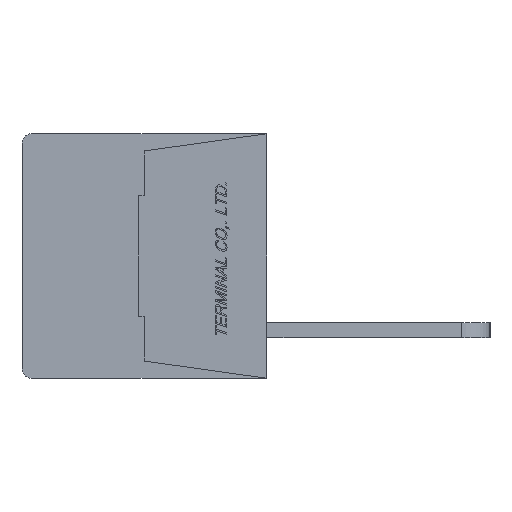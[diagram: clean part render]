
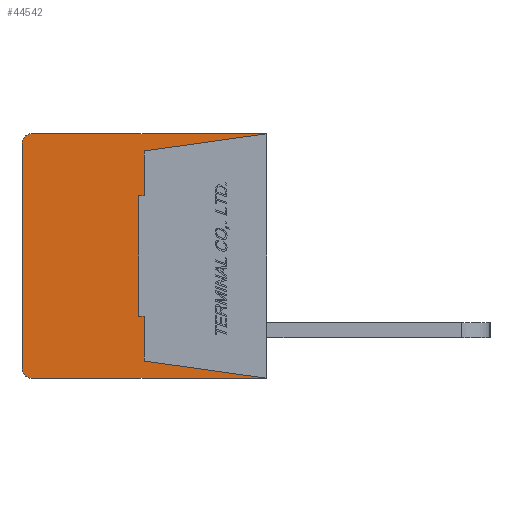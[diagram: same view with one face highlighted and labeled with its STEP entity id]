
A CAD part, left-side view. The second image highlights one B-rep face of the part: STEP entity #44542.
In plain terms, the highlighted planar face has unit normal (-1, 0, 0).
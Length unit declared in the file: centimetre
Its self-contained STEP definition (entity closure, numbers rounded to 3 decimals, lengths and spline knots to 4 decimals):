
#2286=CIRCLE('',#76339,0.05);
#2287=CIRCLE('',#76342,0.05);
#3944=VERTEX_POINT('',#61803);
#3945=VERTEX_POINT('',#61805);
#3946=VERTEX_POINT('',#61809);
#3947=VERTEX_POINT('',#61813);
#3948=VERTEX_POINT('',#61817);
#3949=VERTEX_POINT('',#61821);
#3950=VERTEX_POINT('',#61825);
#3951=VERTEX_POINT('',#61827);
#3952=VERTEX_POINT('',#61829);
#3953=VERTEX_POINT('',#61831);
#3954=VERTEX_POINT('',#61833);
#3955=VERTEX_POINT('',#61835);
#8624=VECTOR('',#51688,1.);
#8628=VECTOR('',#51697,1.);
#8631=VECTOR('',#51705,1.);
#8632=VECTOR('',#51707,1.);
#8633=VECTOR('',#51708,1.);
#8634=VECTOR('',#51709,1.);
#8635=VECTOR('',#51710,1.);
#8636=VECTOR('',#51711,1.);
#8637=VECTOR('',#51712,1.);
#8638=VECTOR('',#51713,1.);
#13826=LINE('',#61804,#8624);
#13830=LINE('',#61814,#8628);
#13833=LINE('',#61822,#8631);
#13834=LINE('',#61824,#8632);
#13835=LINE('',#61826,#8633);
#13836=LINE('',#61828,#8634);
#13837=LINE('',#61830,#8635);
#13838=LINE('',#61832,#8636);
#13839=LINE('',#61834,#8637);
#13840=LINE('',#61836,#8638);
#19636=EDGE_CURVE('',#3945,#3944,#13826,.T.);
#19639=EDGE_CURVE('',#3946,#3944,#2286,.T.);
#19641=EDGE_CURVE('',#3946,#3947,#13830,.T.);
#19643=EDGE_CURVE('',#3948,#3947,#2287,.T.);
#19645=EDGE_CURVE('',#3948,#3949,#13833,.T.);
#19646=EDGE_CURVE('',#3950,#3945,#13834,.T.);
#19647=EDGE_CURVE('',#3949,#3951,#13835,.T.);
#19648=EDGE_CURVE('',#3951,#3952,#13836,.T.);
#19649=EDGE_CURVE('',#3952,#3953,#13837,.T.);
#19650=EDGE_CURVE('',#3953,#3954,#13838,.T.);
#19651=EDGE_CURVE('',#3954,#3955,#13839,.T.);
#19652=EDGE_CURVE('',#3955,#3950,#13840,.T.);
#28599=ORIENTED_EDGE('',*,*,#19646,.T.);
#28600=ORIENTED_EDGE('',*,*,#19636,.T.);
#28601=ORIENTED_EDGE('',*,*,#19639,.F.);
#28602=ORIENTED_EDGE('',*,*,#19641,.T.);
#28603=ORIENTED_EDGE('',*,*,#19643,.F.);
#28604=ORIENTED_EDGE('',*,*,#19645,.T.);
#28605=ORIENTED_EDGE('',*,*,#19647,.T.);
#28606=ORIENTED_EDGE('',*,*,#19648,.T.);
#28607=ORIENTED_EDGE('',*,*,#19649,.T.);
#28608=ORIENTED_EDGE('',*,*,#19650,.T.);
#28609=ORIENTED_EDGE('',*,*,#19651,.T.);
#28610=ORIENTED_EDGE('',*,*,#19652,.T.);
#38732=EDGE_LOOP('',(#28599,#28600,#28601,#28602,#28603,#28604,#28605,#28606,
#28607,#28608,#28609,#28610));
#41722=FACE_BOUND('',#38732,.T.);
#44542=ADVANCED_FACE('',(#41722),#46982,.F.);
#46982=PLANE('',#76344);
#51688=DIRECTION('',(0.,1.,0.));
#51693=DIRECTION('',(1.,0.,0.));
#51694=DIRECTION('',(0.,0.,-0.05));
#51697=DIRECTION('',(0.,0.,-1.));
#51701=DIRECTION('',(1.,0.,0.));
#51702=DIRECTION('',(0.,0.,-0.05));
#51705=DIRECTION('',(0.,-1.,0.));
#51706=DIRECTION('',(1.,0.,0.));
#51707=DIRECTION('',(0.,-0.99,0.139));
#51708=DIRECTION('',(0.,0.99,0.139));
#51709=DIRECTION('',(0.,0.,1.));
#51710=DIRECTION('',(0.,1.,0.));
#51711=DIRECTION('',(0.,0.,1.));
#51712=DIRECTION('',(0.,-1.,0.));
#51713=DIRECTION('',(0.,0.,1.));
#61803=CARTESIAN_POINT('',(-1.,1.23,0.64));
#61804=CARTESIAN_POINT('',(-1.,0.,0.64));
#61805=CARTESIAN_POINT('',(-1.,0.,0.64));
#61809=CARTESIAN_POINT('',(-1.,1.28,0.59));
#61810=CARTESIAN_POINT('',(-1.,1.23,0.59));
#61813=CARTESIAN_POINT('',(-1.,1.28,-0.59));
#61814=CARTESIAN_POINT('',(-1.,1.28,0.59));
#61817=CARTESIAN_POINT('',(-1.,1.23,-0.64));
#61818=CARTESIAN_POINT('',(-1.,1.23,-0.59));
#61821=CARTESIAN_POINT('',(-1.,0.,-0.64));
#61822=CARTESIAN_POINT('',(-1.,1.23,-0.64));
#61823=CARTESIAN_POINT('',(-1.,0.6345,0.));
#61824=CARTESIAN_POINT('',(-1.,0.64,0.55));
#61825=CARTESIAN_POINT('',(-1.,0.64,0.55));
#61826=CARTESIAN_POINT('',(-1.,0.,-0.64));
#61827=CARTESIAN_POINT('',(-1.,0.64,-0.55));
#61828=CARTESIAN_POINT('',(-1.,0.64,-0.55));
#61829=CARTESIAN_POINT('',(-1.,0.64,-0.315));
#61830=CARTESIAN_POINT('',(-1.,0.64,-0.315));
#61831=CARTESIAN_POINT('',(-1.,0.67,-0.315));
#61832=CARTESIAN_POINT('',(-1.,0.67,-0.315));
#61833=CARTESIAN_POINT('',(-1.,0.67,0.315));
#61834=CARTESIAN_POINT('',(-1.,0.67,0.315));
#61835=CARTESIAN_POINT('',(-1.,0.64,0.315));
#61836=CARTESIAN_POINT('',(-1.,0.64,0.315));
#76339=AXIS2_PLACEMENT_3D('',#61810,#51693,#51694);
#76342=AXIS2_PLACEMENT_3D('',#61818,#51701,#51702);
#76344=AXIS2_PLACEMENT_3D('',#61823,#51706,$);
